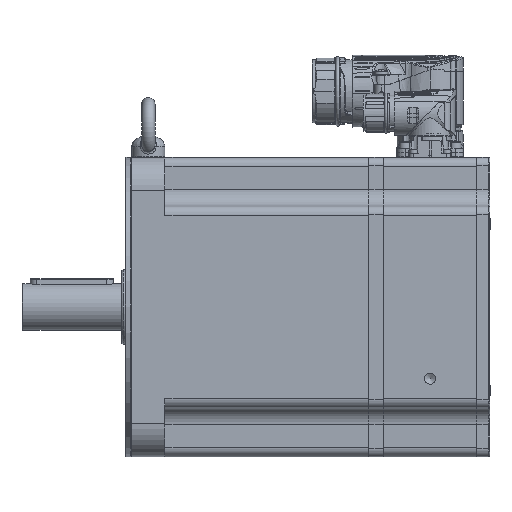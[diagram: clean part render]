
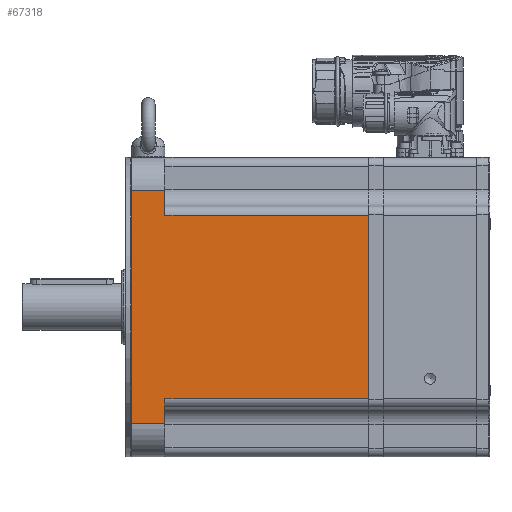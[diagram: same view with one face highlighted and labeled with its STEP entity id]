
A CAD part, left-side view. The second image highlights one B-rep face of the part: STEP entity #67318.
In plain terms, the highlighted planar face has unit normal (-1, 0, 0) as drawn and (1, 0, 0) by its records, which use the part's own axes.
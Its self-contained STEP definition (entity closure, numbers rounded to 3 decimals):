
#1762=PLANE('',#71541);
#6500=LINE('',#100118,#9037);
#6514=LINE('',#100199,#9051);
#6521=LINE('',#100244,#9058);
#6529=LINE('',#100268,#9066);
#6530=LINE('',#100269,#9067);
#6531=LINE('',#100271,#9068);
#6532=LINE('',#100273,#9069);
#6533=LINE('',#100274,#9070);
#9037=VECTOR('',#80339,1000.);
#9051=VECTOR('',#80415,1000.);
#9058=VECTOR('',#80460,1000.);
#9066=VECTOR('',#80484,1000.);
#9067=VECTOR('',#80485,1000.);
#9068=VECTOR('',#80486,1000.);
#9069=VECTOR('',#80487,1000.);
#9070=VECTOR('',#80488,1000.);
#16978=ORIENTED_EDGE('',*,*,#27259,.F.);
#16979=ORIENTED_EDGE('',*,*,#27327,.T.);
#16980=ORIENTED_EDGE('',*,*,#27295,.F.);
#16981=ORIENTED_EDGE('',*,*,#27328,.T.);
#16982=ORIENTED_EDGE('',*,*,#27329,.F.);
#16983=ORIENTED_EDGE('',*,*,#27330,.T.);
#16984=ORIENTED_EDGE('',*,*,#27315,.F.);
#16985=ORIENTED_EDGE('',*,*,#27331,.T.);
#27259=EDGE_CURVE('',#33076,#33077,#6500,.T.);
#27295=EDGE_CURVE('',#33112,#33113,#6514,.T.);
#27315=EDGE_CURVE('',#33132,#33133,#6521,.T.);
#27327=EDGE_CURVE('',#33076,#33113,#6529,.F.);
#27328=EDGE_CURVE('',#33112,#33140,#6530,.T.);
#27329=EDGE_CURVE('',#33141,#33140,#6531,.T.);
#27330=EDGE_CURVE('',#33141,#33133,#6532,.F.);
#27331=EDGE_CURVE('',#33132,#33077,#6533,.T.);
#33076=VERTEX_POINT('',#100117);
#33077=VERTEX_POINT('',#100119);
#33112=VERTEX_POINT('',#100198);
#33113=VERTEX_POINT('',#100200);
#33132=VERTEX_POINT('',#100245);
#33133=VERTEX_POINT('',#100246);
#33140=VERTEX_POINT('',#100270);
#33141=VERTEX_POINT('',#100272);
#39285=EDGE_LOOP('',(#16978,#16979,#16980,#16981,#16982,#16983,#16984,#16985));
#43097=FACE_BOUND('',#39285,.T.);
#67318=ADVANCED_FACE('',(#43097),#1762,.T.);
#71541=AXIS2_PLACEMENT_3D('',#100267,#80482,#80483);
#80339=DIRECTION('',(0.,0.,-1.));
#80415=DIRECTION('',(0.,0.,-1.));
#80460=DIRECTION('',(0.,0.,-1.));
#80482=DIRECTION('',(1.,0.,0.));
#80483=DIRECTION('',(0.,1.,0.));
#80484=DIRECTION('',(0.,1.,0.));
#80485=DIRECTION('',(0.,-1.,0.));
#80486=DIRECTION('',(0.,0.,1.));
#80487=DIRECTION('',(0.,-1.,0.));
#80488=DIRECTION('',(0.,1.,0.));
#100117=CARTESIAN_POINT('',(90.,143.8,55.2));
#100118=CARTESIAN_POINT('',(90.,143.8,-90.));
#100119=CARTESIAN_POINT('',(90.,143.8,-55.2));
#100198=CARTESIAN_POINT('',(90.,21.3,70.));
#100199=CARTESIAN_POINT('',(90.,21.3,-90.));
#100200=CARTESIAN_POINT('',(90.,21.3,55.2));
#100244=CARTESIAN_POINT('',(90.,21.3,-90.));
#100245=CARTESIAN_POINT('',(90.,21.3,-55.2));
#100246=CARTESIAN_POINT('',(90.,21.3,-70.));
#100267=CARTESIAN_POINT('',(90.,491.763,-90.));
#100268=CARTESIAN_POINT('',(90.,491.763,55.2));
#100269=CARTESIAN_POINT('',(90.,491.763,70.));
#100270=CARTESIAN_POINT('',(90.,1.3,70.));
#100271=CARTESIAN_POINT('',(90.,1.3,-90.));
#100272=CARTESIAN_POINT('',(90.,1.3,-70.));
#100273=CARTESIAN_POINT('',(90.,491.763,-70.));
#100274=CARTESIAN_POINT('',(90.,491.763,-55.2));
